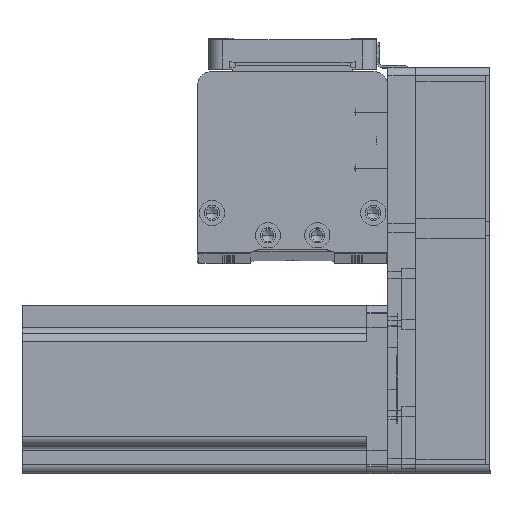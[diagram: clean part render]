
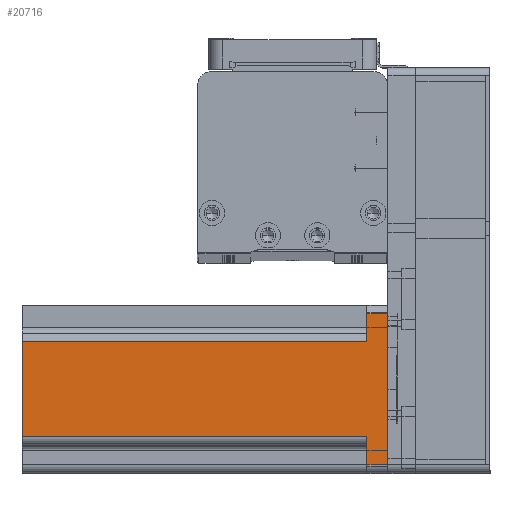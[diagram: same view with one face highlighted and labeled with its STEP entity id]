
A CAD part, top view. The second image highlights one B-rep face of the part: STEP entity #20716.
In plain terms, the highlighted planar face has unit normal (0, 0, 1) as drawn and (0, 1, 0) by its records, which use the part's own axes.
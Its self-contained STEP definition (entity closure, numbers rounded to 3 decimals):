
#735 = DIRECTION ( 'NONE',  ( -1., 0., 0. ) ) ;
#2020 = LINE ( 'NONE', #21596, #44312 ) ;
#3244 = VERTEX_POINT ( 'NONE', #19522 ) ;
#3721 = VERTEX_POINT ( 'NONE', #23434 ) ;
#4007 = EDGE_CURVE ( 'NONE', #3721, #37279, #22820, .T. ) ;
#4951 = EDGE_CURVE ( 'NONE', #37279, #3244, #34870, .T. ) ;
#5386 = CARTESIAN_POINT ( 'NONE',  ( 30., 30., 130.7 ) ) ;
#5609 = VERTEX_POINT ( 'NONE', #15810 ) ;
#6948 = DIRECTION ( 'NONE',  ( -1., 0., 0. ) ) ;
#8221 = CARTESIAN_POINT ( 'NONE',  ( 27., 30., 0. ) ) ;
#9036 = CARTESIAN_POINT ( 'NONE',  ( 17., 30., 130.7 ) ) ;
#9480 = DIRECTION ( 'NONE',  ( 1., 0., 0. ) ) ;
#9567 = VECTOR ( 'NONE', #735, 1000. ) ;
#9675 = EDGE_CURVE ( 'NONE', #16683, #32586, #30620, .T. ) ;
#12817 = CARTESIAN_POINT ( 'NONE',  ( -27., 30., 7.5 ) ) ;
#13781 = VECTOR ( 'NONE', #6948, 1000. ) ;
#15315 = ORIENTED_EDGE ( 'NONE', *, *, #29440, .T. ) ;
#15367 = VECTOR ( 'NONE', #17582, 1000. ) ;
#15810 = CARTESIAN_POINT ( 'NONE',  ( 27., 30., 7.5 ) ) ;
#16683 = VERTEX_POINT ( 'NONE', #28522 ) ;
#17582 = DIRECTION ( 'NONE',  ( 0., 0., -1. ) ) ;
#18376 = CARTESIAN_POINT ( 'NONE',  ( -17., 30., 130.7 ) ) ;
#19522 = CARTESIAN_POINT ( 'NONE',  ( -17., 30., 7.5 ) ) ;
#19631 = EDGE_CURVE ( 'NONE', #5609, #37153, #37212, .T. ) ;
#19705 = VECTOR ( 'NONE', #34898, 1000. ) ;
#19807 = ORIENTED_EDGE ( 'NONE', *, *, #24330, .F. ) ;
#20716 = ADVANCED_FACE ( 'NONE', ( #38416 ), #29680, .F. ) ;
#20925 = CARTESIAN_POINT ( 'NONE',  ( 20., 30., 7.5 ) ) ;
#21596 = CARTESIAN_POINT ( 'NONE',  ( -17., 30., 130.7 ) ) ;
#21715 = ORIENTED_EDGE ( 'NONE', *, *, #19631, .T. ) ;
#22820 = LINE ( 'NONE', #49668, #43383 ) ;
#22923 = AXIS2_PLACEMENT_3D ( 'NONE', #5386, #33951, #9480 ) ;
#23081 = ORIENTED_EDGE ( 'NONE', *, *, #4951, .T. ) ;
#23434 = CARTESIAN_POINT ( 'NONE',  ( -27., 30., 0. ) ) ;
#24330 = EDGE_CURVE ( 'NONE', #5609, #29671, #42233, .T. ) ;
#27567 = CARTESIAN_POINT ( 'NONE',  ( 17., 30., 7.5 ) ) ;
#28522 = CARTESIAN_POINT ( 'NONE',  ( 17., 30., 130.7 ) ) ;
#29440 = EDGE_CURVE ( 'NONE', #16683, #29671, #53162, .T. ) ;
#29671 = VERTEX_POINT ( 'NONE', #27567 ) ;
#29680 = PLANE ( 'NONE',  #22923 ) ;
#30157 = ORIENTED_EDGE ( 'NONE', *, *, #42417, .T. ) ;
#30620 = LINE ( 'NONE', #43179, #19705 ) ;
#32029 = CARTESIAN_POINT ( 'NONE',  ( -20., 30., 7.5 ) ) ;
#32586 = VERTEX_POINT ( 'NONE', #18376 ) ;
#33951 = DIRECTION ( 'NONE',  ( 0., -1., 0. ) ) ;
#34870 = LINE ( 'NONE', #32029, #45817 ) ;
#34898 = DIRECTION ( 'NONE',  ( -1., 0., 0. ) ) ;
#35111 = ORIENTED_EDGE ( 'NONE', *, *, #46704, .T. ) ;
#36153 = DIRECTION ( 'NONE',  ( 1., 0., 0. ) ) ;
#37153 = VERTEX_POINT ( 'NONE', #8221 ) ;
#37212 = LINE ( 'NONE', #42155, #15367 ) ;
#37279 = VERTEX_POINT ( 'NONE', #12817 ) ;
#37647 = DIRECTION ( 'NONE',  ( 0., 0., -1. ) ) ;
#37836 = ORIENTED_EDGE ( 'NONE', *, *, #9675, .F. ) ;
#38416 = FACE_OUTER_BOUND ( 'NONE', #45474, .T. ) ;
#41577 = DIRECTION ( 'NONE',  ( 0., 0., 1. ) ) ;
#42155 = CARTESIAN_POINT ( 'NONE',  ( 27., 30., 130.7 ) ) ;
#42211 = ORIENTED_EDGE ( 'NONE', *, *, #4007, .T. ) ;
#42226 = VECTOR ( 'NONE', #37647, 1000. ) ;
#42233 = LINE ( 'NONE', #20925, #9567 ) ;
#42417 = EDGE_CURVE ( 'NONE', #3244, #32586, #2020, .T. ) ;
#43179 = CARTESIAN_POINT ( 'NONE',  ( 30., 30., 130.7 ) ) ;
#43383 = VECTOR ( 'NONE', #41577, 1000. ) ;
#44312 = VECTOR ( 'NONE', #46176, 1000. ) ;
#45474 = EDGE_LOOP ( 'NONE', ( #23081, #30157, #37836, #15315, #19807, #21715, #35111, #42211 ) ) ;
#45817 = VECTOR ( 'NONE', #36153, 1000. ) ;
#46176 = DIRECTION ( 'NONE',  ( 0., 0., 1. ) ) ;
#46515 = LINE ( 'NONE', #52269, #13781 ) ;
#46704 = EDGE_CURVE ( 'NONE', #37153, #3721, #46515, .T. ) ;
#49668 = CARTESIAN_POINT ( 'NONE',  ( -27., 30., 130.7 ) ) ;
#52269 = CARTESIAN_POINT ( 'NONE',  ( 30., 30., 0. ) ) ;
#53162 = LINE ( 'NONE', #9036, #42226 ) ;
